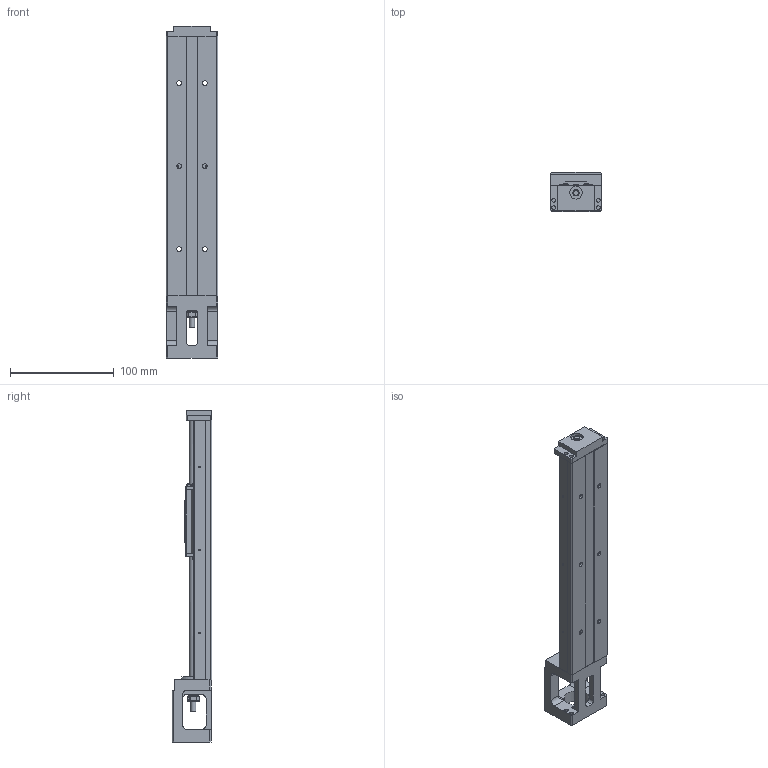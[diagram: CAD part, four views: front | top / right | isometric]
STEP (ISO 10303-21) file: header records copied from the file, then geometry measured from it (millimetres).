
FILE_DESCRIPTION(/* description */ (''),/* implementation_level */ '2;1');
FILE_NAME(/* name */ '26-250low.stp',/* time_stamp */ '2018-02-12T09:12:13+08:00',/* author */ (''),/* organization */ (''),/* preprocessor_version */ 'ST-DEVELOPER v11',/* originating_system */ 'SIEMENS UGS NX 6.0',/* authorisation */ '');
FILE_SCHEMA (('AUTOMOTIVE_DESIGN { 1 0 10303 214 1 1 1 1 }'));
Length unit declared in the file: millimetre
Products named in the file (1): 3.069
Bounding box: 50 x 38.5 x 320 mm (x, y, z)
Volume: 230073.4 mm3; surface area: 82111.4 mm2
Topology: 5 solids, 10 shells, 650 faces, 1685 edges, 1083 vertices
Faces by surface type: plane 337, cylinder 225, cone 59, bspline 20, extrusion 4, torus 4, sphere 1
Full cylindrical faces by diameter (mm): 1.6 x6, 2.42 x4, 2.5 x5, 2.8 x6, 3.2 x4, 3.3 x2, 3.5 x6, 4 x4, 4.5 x6, 5 x7, 5.7 x1, 6 x10, 8 x31, 9 x2, 10 x1, 12 x2, 16.9 x1
Entity records: 30285 total; most frequent: CARTESIAN_POINT 11215, DIRECTION 2957, ORIENTED_EDGE 2920, EDGE_CURVE 1460, AXIS2_PLACEMENT_3D 1047, VERTEX_POINT 1013, VECTOR 863, LINE 859
